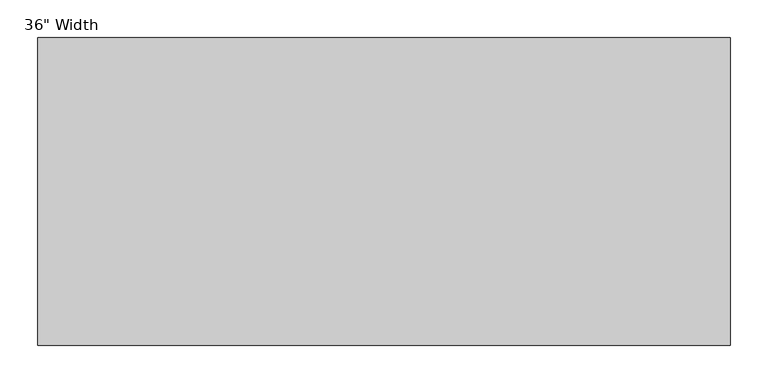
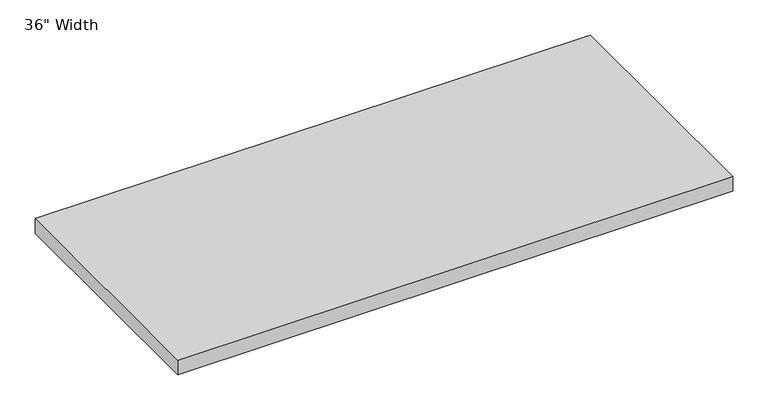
"""IFC4 building model written with IfcOpenShell, lengths in millimetres: furniture geometry."""

from ifc_helpers import new_model, si_unit, origin, origin_with_axes, place, context, project, spatial, polyline, outline, extrude, source, transform, mapped, element, save


def furniture_1d4756c6(model_context):
    return source(origin(), model_context, "Body", "SweptSolid", [
        extrude(outline(polyline([(381.0, 29.2199219), (381.0, -377.1800781), (-533.4, -377.1800781), (-533.4, 29.2199219), (381.0, 29.2199219)])), origin_with_axes(), (0.0, 0.0, 1.0), 25.4),
    ])


if __name__ == "__main__":
    model = new_model("IFC4")
    model_context = context("Model", 3, world=origin())
    ifc_project = project(units=[si_unit("LENGTHUNIT", "METRE", prefix="MILLI")], contexts=[model_context])
    site = spatial("IfcSite", under=ifc_project)
    building = spatial("IfcBuilding", under=site)
    placement = place(None, origin())
    furniture_shape = furniture_1d4756c6(model_context)
    element("IfcFurniture", 1, ObjectType="Furniture-Cabinet-Teknion-Altos_Landscape-Cushion-R2015 : 36\" Width", at=placement, inside=building, context=model_context, shape_type="MappedRepresentation", body=[
        mapped(furniture_shape, transform((0.0, 0.0, 0.0), x_axis=(1.0, 0.0, 0.0), y_axis=(0.0, 1.0, 0.0), z_axis=(0.0, 0.0, 1.0))),
    ])
    save(model, "model.ifc")
